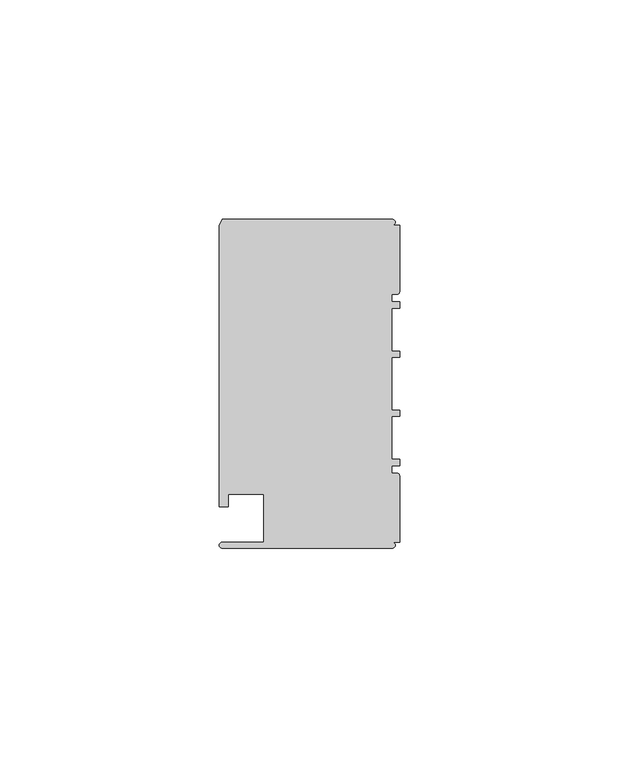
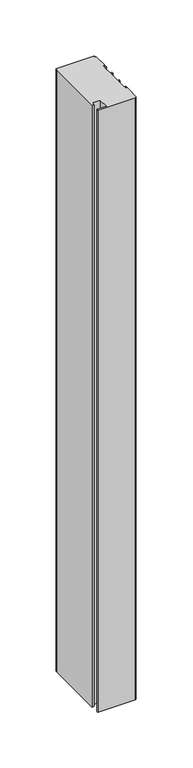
"""IFC4 building model written with IfcOpenShell, lengths in millimetres: member geometry, Прямоугольный импост : 1-AMG-1-Профиль 40Х75 Низ Л."""

from ifc_helpers import new_model, si_unit, point, frame, frame_2d, origin, place, context, project, spatial, polyline, circle_curve, trimmed, segment, composite_curve, outline, extrude, source, transform, mapped, element, save


def member_bc8d14ae(model_context):
    return source(origin(), model_context, "Body", "SweptSolid", [
        extrude(outline(composite_curve([segment(polyline([(-1.7, -37.5), (-40.4, -37.5)]), True, "CONTINUOUS"), segment(trimmed(circle_curve(frame_2d((-40.4, -36.8)), 0.7), [point((-40.4, -37.5))], [point((-40.4, -36.1))], False, "CARTESIAN"), True, "CONTINUOUS"), segment(polyline([(-40.4, -36.1), (-31.0, -36.1), (-31.0, -25.25), (-39.0, -25.25), (-39.0, -28.1), (-41.1, -28.1), (-41.1, 35.6)]), True, "CONTINUOUS"), segment(trimmed(circle_curve(frame_2d((-38.1714286, 35.6)), 2.9285714), [point((-41.1, 35.6))], [point((-40.4, 37.5))], False, "CARTESIAN"), True, "CONTINUOUS"), segment(polyline([(-40.4, 37.5), (-1.7, 37.5)]), True, "CONTINUOUS"), segment(trimmed(circle_curve(frame_2d((-1.7, 36.8)), 0.7), [point((-1.7, 37.5))], [point((-1.7, 36.1))], False, "CARTESIAN"), True, "CONTINUOUS"), segment(polyline([(-1.7, 36.1), (0.0, 36.1), (0.0, 20.95)]), True, "CONTINUOUS"), segment(trimmed(circle_curve(frame_2d((-0.5, 20.95)), 0.5), [point((0.0, 20.95))], [point((-0.5, 20.45))], False, "CARTESIAN"), True, "CONTINUOUS"), segment(polyline([(-0.5, 20.45), (-1.8, 20.45), (-1.8, 18.65), (0.0, 18.65), (0.0, 17.25), (-1.8, 17.25), (-1.8, 7.4), (0.0, 7.4), (0.0, 6.0), (-1.8, 6.0), (-1.8, -6.0), (0.0, -6.0), (0.0, -7.4), (-1.8, -7.4), (-1.8, -17.25), (0.0, -17.25), (0.0, -18.65), (-1.8, -18.65), (-1.8, -20.45), (-0.5, -20.45)]), True, "CONTINUOUS"), segment(trimmed(circle_curve(frame_2d((-0.5, -20.95)), 0.5), [point((-0.5, -20.45))], [point((0.0, -20.95))], False, "CARTESIAN"), True, "CONTINUOUS"), segment(polyline([(0.0, -20.95), (0.0, -36.1), (-1.7, -36.1)]), True, "CONTINUOUS"), segment(trimmed(circle_curve(frame_2d((-1.7, -36.8)), 0.7), [point((-1.7, -36.1))], [point((-1.7, -37.5))], False, "CARTESIAN"), True, "CONTINUOUS")], self_intersect=False)), frame((0.0, 0.0, -658.8849139), z_axis=(0.0, 0.0, 1.0), x_axis=(1.0, 0.0, 0.0)), (0.0, 0.0, 1.0), 658.8849139),
    ])


if __name__ == "__main__":
    model = new_model("IFC4")
    model_context = context("Model", 3, world=origin())
    ifc_project = project(units=[si_unit("LENGTHUNIT", "METRE", prefix="MILLI")], contexts=[model_context])
    site = spatial("IfcSite", under=ifc_project)
    building = spatial("IfcBuilding", under=site)
    placement = place(None, origin())
    member_shape = member_bc8d14ae(model_context)
    element("IfcMember", 1, ObjectType="Прямоугольный импост : 1-AMG-1-Профиль 40Х75 Низ Л", at=placement, inside=building, context=model_context, shape_type="MappedRepresentation", body=[
        mapped(member_shape, transform((0.0, 0.0, 0.0), x_axis=(1.0, 0.0, 0.0), y_axis=(0.0, 1.0, 0.0), z_axis=(0.0, 0.0, 1.0))),
    ])
    save(model, "model.ifc")
